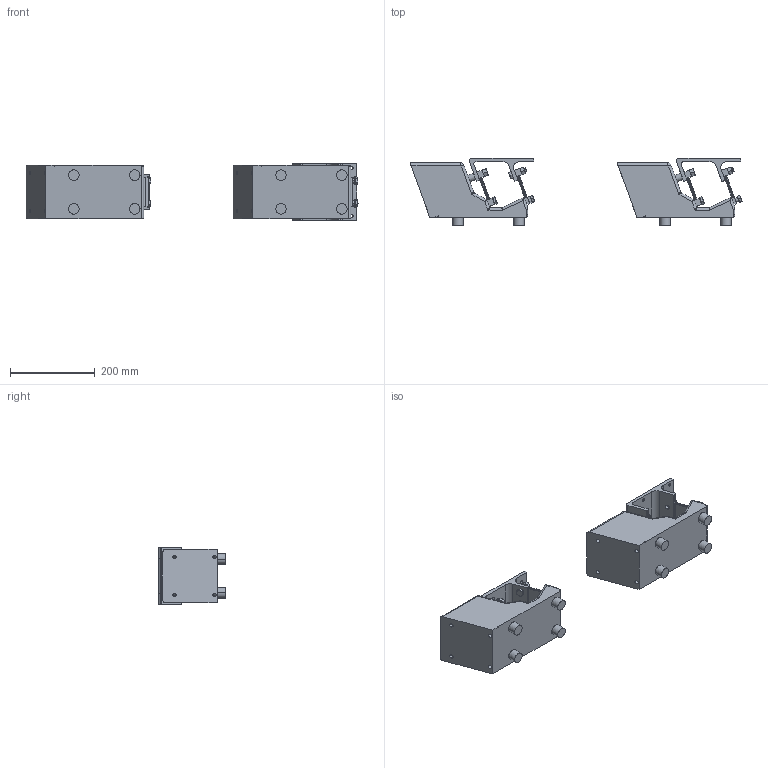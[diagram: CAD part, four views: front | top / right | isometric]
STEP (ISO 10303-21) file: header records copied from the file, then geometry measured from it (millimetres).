
FILE_DESCRIPTION (( 'STEP AP203' ), '1' );
FILE_NAME ('JSC 02 外形安装图 （加宽上盖）.STEP', '2025-01-31T03:56:53', ( '' ), ( '' ), 'SwSTEP 2.0', 'SolidWorks 2022', '' );
FILE_SCHEMA (( 'CONFIG_CONTROL_DESIGN' ));
Length unit declared in the file: millimetre
Products named in the file (1): JSC 02   外形安装图 （加宽上盖）
Bounding box: 784.52 x 158.65 x 134 mm (x, y, z)
Volume: 5776605.1 mm3; surface area: 537300 mm2
Topology: 5 solids, 13 shells, 758 faces, 1906 edges, 1204 vertices
Faces by surface type: plane 388, cylinder 196, cone 146, bspline 22, torus 6
Entity records: 26419 total; most frequent: CARTESIAN_POINT 8677, ORIENTED_EDGE 3756, DIRECTION 3492, EDGE_CURVE 1878, AXIS2_PLACEMENT_3D 1287, VERTEX_POINT 1204, VECTOR 918, LINE 918
